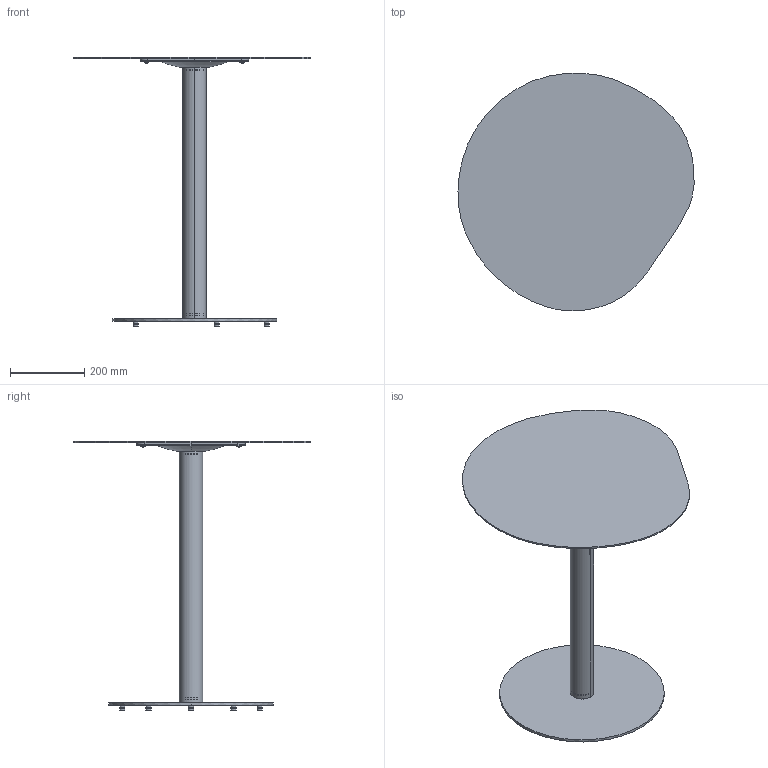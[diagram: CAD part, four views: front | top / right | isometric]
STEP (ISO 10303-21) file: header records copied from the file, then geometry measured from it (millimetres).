
FILE_DESCRIPTION(/* description */ (''),/* implementation_level */ '2;1');
FILE_NAME(/* name */ 'Pond Café Table_Ferm living_3D',/* time_stamp */ '2023-03-20T11:18:06+01:00',/* author */ (''),/* organization */ (''),/* preprocessor_version */ 'ST-DEVELOPER v16.5',/* originating_system */ 'Rhino 7.27',/* authorisation */ '');
FILE_SCHEMA (('CONFIG_CONTROL_DESIGN'));
Products named in the file (1): Document
Bounding box: 637.6 x 641.81 x 729 mm (x, y, z)
Volume: 3065522 mm3; surface area: 1505977.8 mm2
Topology: 43 solids, 48 shells, 1836 faces, 4256 edges, 2428 vertices
Faces by surface type: bspline 1011, cylinder 498, plane 327
Entity records: 111488 total; most frequent: CARTESIAN_POINT 85843, ORIENTED_EDGE 8362, EDGE_CURVE 4201, VERTEX_POINT 2423, B_SPLINE_CURVE_WITH_KNOTS 2289, EDGE_LOOP 1880, ADVANCED_FACE 1836, FACE_OUTER_BOUND 1836
